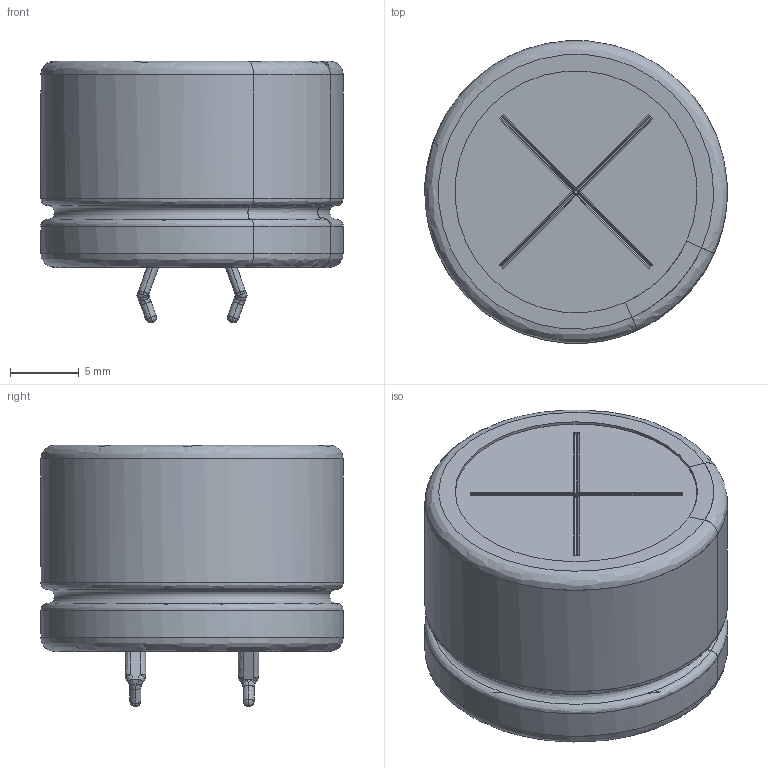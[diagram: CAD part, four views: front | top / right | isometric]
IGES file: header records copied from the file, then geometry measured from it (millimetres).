
Start section: JAMA-IS VERSION  1.0
Bounding box: 21.97 x 21.97 x 19.02 mm (x, y, z)
Surface area: 4538.9 mm2 (no closed solid volume)
Topology: 0 solids, 0 shells, 208 faces, 2178 edges, 2142 vertices
Faces by surface type: bspline 208
